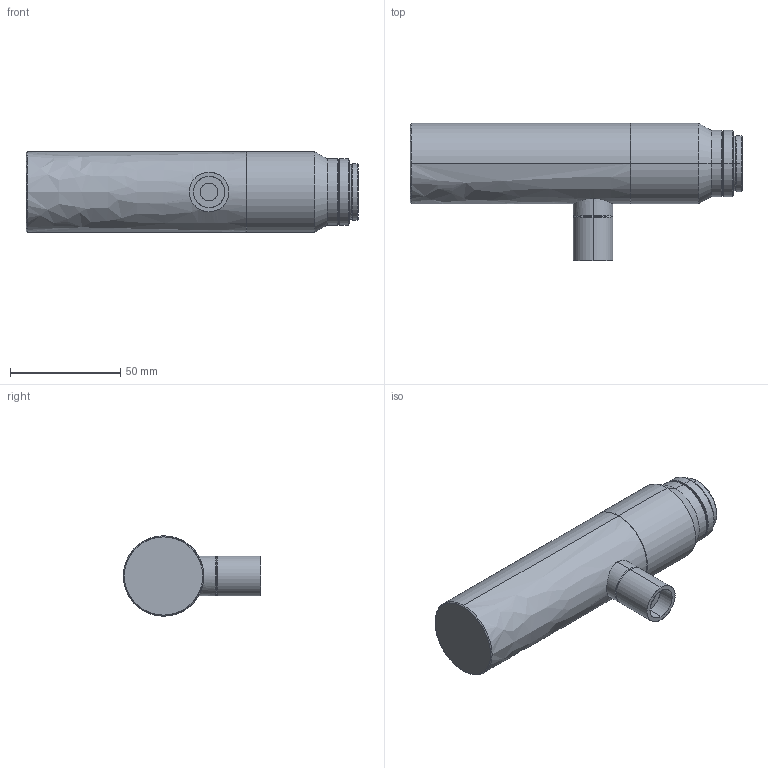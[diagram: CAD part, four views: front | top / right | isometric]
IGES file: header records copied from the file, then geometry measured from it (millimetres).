
Start section: SolidWorks IGES file using analytic representation for surfaces
Bounding box: 150.51 x 62.3 x 36.5 mm (x, y, z)
Surface area: 21015.1 mm2 (no closed solid volume)
Topology: 0 solids, 0 shells, 55 faces, 934 edges, 934 vertices
Faces by surface type: revolution 46, bspline 9
